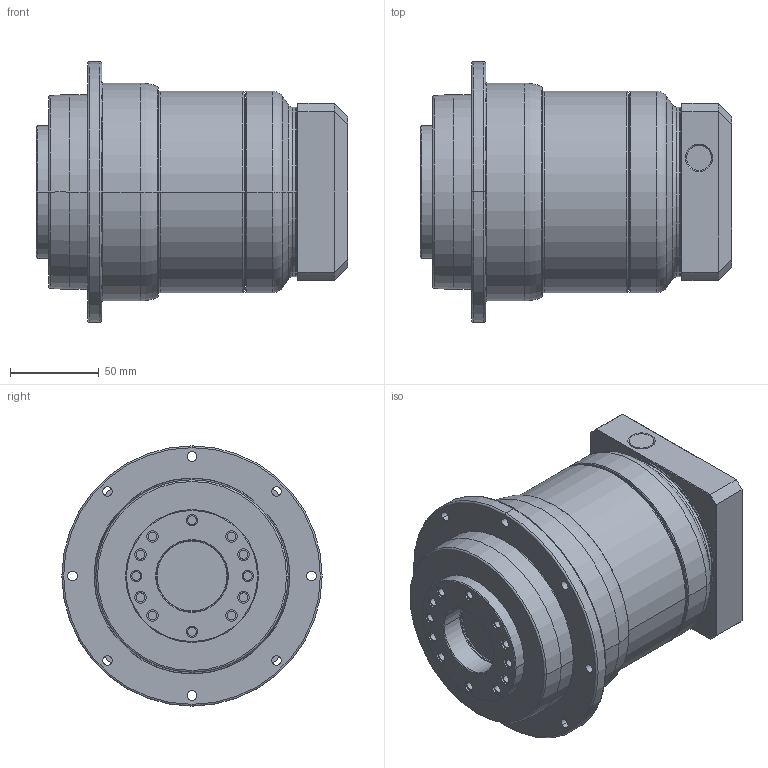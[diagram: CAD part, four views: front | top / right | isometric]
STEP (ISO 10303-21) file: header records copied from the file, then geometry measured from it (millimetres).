
FILE_DESCRIPTION((''),'2;1');
FILE_NAME('PD110_2ST_24-P0411500101_ASM','2016-06-04T',('d01943'),(''),'PRO/ENGINEER BY PARAMETRIC TECHNOLOGY CORPORATION, 2008410','PRO/ENGINEER BY PARAMETRIC TECHNOLOGY CORPORATION, 2008410','');
FILE_SCHEMA(('CONFIG_CONTROL_DESIGN'));
Length unit declared in the file: millimetre
Products named in the file (8): P1355400001; P0367400001; P0275400001; P1324400101; P0411500101; P0503500008; P0941401001; PD110_2ST_24-P0411500101_ASM
Assembly tree (7 placements, depth 2):
  PD110_2ST_24-P0411500101_ASM
    P1355400001
    P0367400001
    P0275400001
    P1324400101
    P0411500101
    P0503500008
    P0941401001
Bounding box: 175.93 x 147 x 147 mm (x, y, z)
Volume: 1676577.8 mm3; surface area: 227856.2 mm2
Topology: 7 solids, 8 shells, 401 faces, 905 edges, 540 vertices
Faces by surface type: cylinder 154, cone 88, torus 74, plane 71, bspline 14
Entity records: 15779 total; most frequent: CARTESIAN_POINT 6422, DIRECTION 2117, ORIENTED_EDGE 1778, AXIS2_PLACEMENT_3D 911, EDGE_CURVE 889, VERTEX_POINT 540, CIRCLE 509, EDGE_LOOP 487
